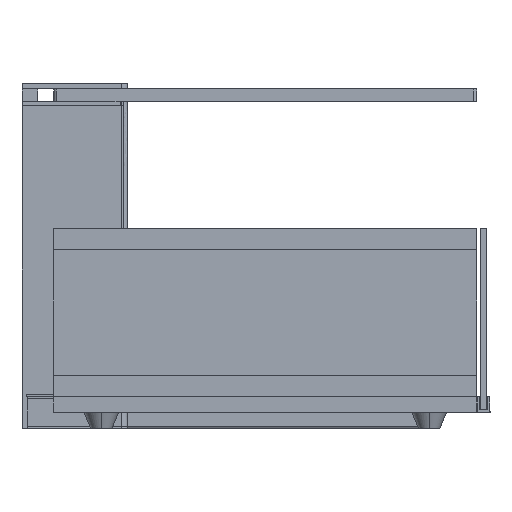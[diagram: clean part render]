
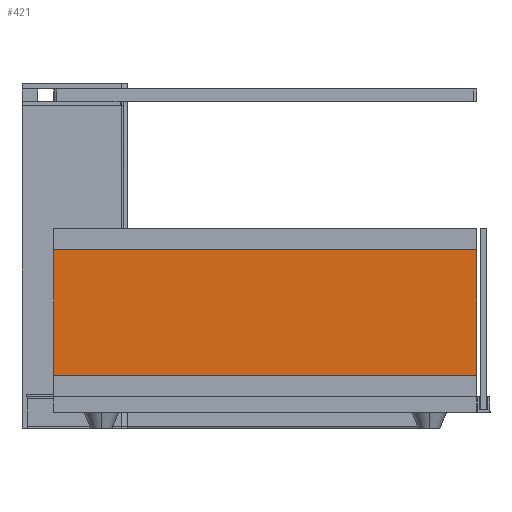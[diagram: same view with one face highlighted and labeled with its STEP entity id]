
A CAD part, left-side view. The second image highlights one B-rep face of the part: STEP entity #421.
In plain terms, the highlighted planar face has unit normal (-1, 0, 0).
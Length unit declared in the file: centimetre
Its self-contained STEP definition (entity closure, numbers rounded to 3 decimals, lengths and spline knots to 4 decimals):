
#421=ADVANCED_FACE($,(#672),#3346,.T.);
#672=FACE_OUTER_BOUND($,#935,.T.);
#935=EDGE_LOOP($,(#1895,#1896,#1897,#1898));
#1895=ORIENTED_EDGE($,*,*,#2663,.T.);
#1896=ORIENTED_EDGE($,*,*,#2656,.T.);
#1897=ORIENTED_EDGE($,*,*,#2662,.F.);
#1898=ORIENTED_EDGE($,*,*,#2649,.F.);
#2649=EDGE_CURVE($,#3103,#3102,#3751,.T.);
#2656=EDGE_CURVE($,#3110,#3109,#3758,.T.);
#2662=EDGE_CURVE($,#3102,#3109,#3764,.T.);
#2663=EDGE_CURVE($,#3103,#3110,#3765,.T.);
#3102=VERTEX_POINT($,#6219);
#3103=VERTEX_POINT($,#6220);
#3109=VERTEX_POINT($,#6226);
#3110=VERTEX_POINT($,#6227);
#3346=PLANE($,#4116);
#3751=B_SPLINE_CURVE_WITH_KNOTS($,1,(#6167,#6168),.UNSPECIFIED.,.F.,.F.,
(2,2),(5.6,45.6),.UNSPECIFIED.);
#3758=B_SPLINE_CURVE_WITH_KNOTS($,1,(#6181,#6182),.UNSPECIFIED.,.F.,.F.,
(2,2),(5.6,45.6),.UNSPECIFIED.);
#3764=B_SPLINE_CURVE_WITH_KNOTS($,1,(#6193,#6194),.UNSPECIFIED.,.F.,.F.,
(2,2),(0.,11.9),.UNSPECIFIED.);
#3765=B_SPLINE_CURVE_WITH_KNOTS($,1,(#6195,#6196),.UNSPECIFIED.,.F.,.F.,
(2,2),(0.,11.9),.UNSPECIFIED.);
#4116=AXIS2_PLACEMENT_3D($,#6210,#4316,$);
#4316=DIRECTION($,(-1.,0.,0.));
#6167=CARTESIAN_POINT($,(-48.633,38.5,16.9));
#6168=CARTESIAN_POINT($,(-48.633,-1.5,16.9));
#6181=CARTESIAN_POINT($,(-48.633,38.5,5.));
#6182=CARTESIAN_POINT($,(-48.633,-1.5,5.));
#6193=CARTESIAN_POINT($,(-48.633,-1.5,16.9));
#6194=CARTESIAN_POINT($,(-48.633,-1.5,5.));
#6195=CARTESIAN_POINT($,(-48.633,38.5,16.9));
#6196=CARTESIAN_POINT($,(-48.633,38.5,5.));
#6210=CARTESIAN_POINT($,(-48.633,-1.5,16.9));
#6219=CARTESIAN_POINT($,(-48.633,-1.5,16.9));
#6220=CARTESIAN_POINT($,(-48.633,38.5,16.9));
#6226=CARTESIAN_POINT($,(-48.633,-1.5,5.));
#6227=CARTESIAN_POINT($,(-48.633,38.5,5.));
